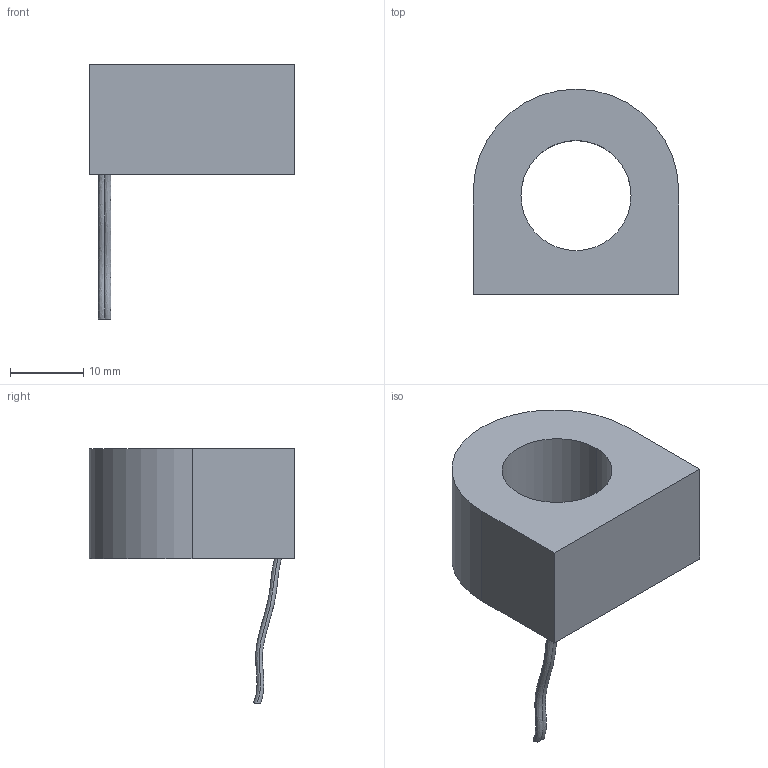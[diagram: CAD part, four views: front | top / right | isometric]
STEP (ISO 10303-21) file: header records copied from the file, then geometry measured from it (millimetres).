
FILE_DESCRIPTION (( 'STEP AP214' ), '1' );
FILE_NAME ('Òðàíñôîðìàòîð òîêà.STEP', '2019-05-13T09:11:52', ( '' ), ( '' ), 'SwSTEP 2.0', 'SolidWorks 2015', '' );
FILE_SCHEMA (( 'AUTOMOTIVE_DESIGN' ));
Length unit declared in the file: millimetre
Products named in the file (1): Òðàíñôîðìàòîð òîêà
Bounding box: 28 x 28 x 34.64 mm (x, y, z)
Volume: 7870.5 mm3; surface area: 3356.5 mm2
Topology: 1 solids, 1 shells, 15 faces, 33 edges, 22 vertices
Faces by surface type: plane 7, cylinder 5, bspline 3
Entity records: 791 total; most frequent: CARTESIAN_POINT 377, DIRECTION 72, ORIENTED_EDGE 66, EDGE_CURVE 33, AXIS2_PLACEMENT_3D 29, VERTEX_POINT 22, EDGE_LOOP 19, CIRCLE 16
